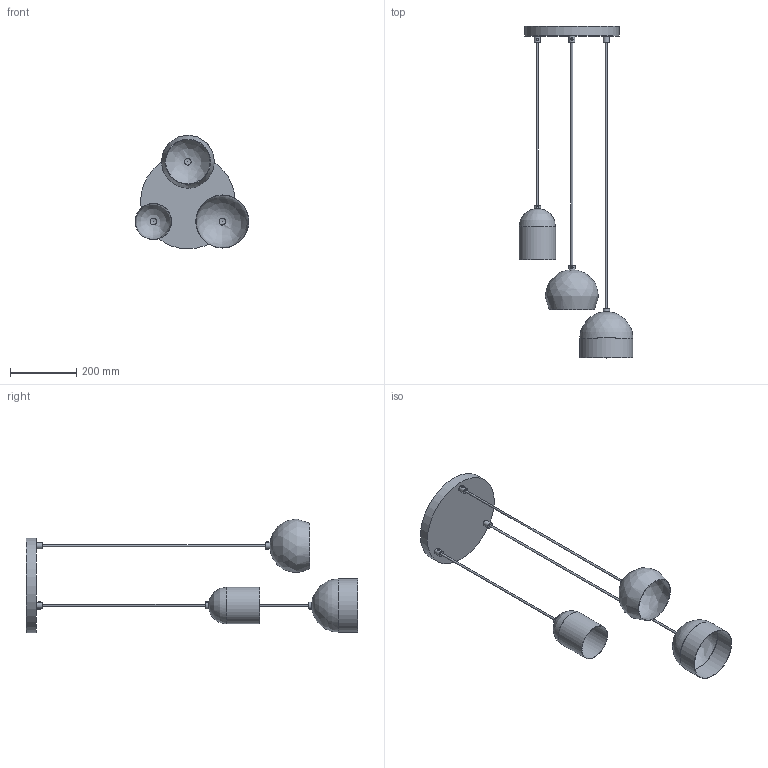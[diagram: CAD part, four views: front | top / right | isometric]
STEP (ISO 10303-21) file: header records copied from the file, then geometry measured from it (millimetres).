
FILE_DESCRIPTION(/* description */ (''),/* implementation_level */ '2;1');
FILE_NAME(/* name */ 'C:/Users/kubaw/OneDrive/Pulpit/Nowy folder/2827_TEMPRE/2827_TEMPRE v4.step',/* time_stamp */ '2021-03-13T10:45:07+01:00',/* author */ (''),/* organization */ (''),/* preprocessor_version */ 'ST-DEVELOPER v18.1',/* originating_system */ 'Autodesk Translation Framework v9.10.0.1330',/* authorisation */ '');
FILE_SCHEMA (('AUTOMOTIVE_DESIGN { 1 0 10303 214 3 1 1 }'));
Length unit declared in the file: millimetre
Products named in the file (10): 2827_TEMPRE; Component1; LISTWA2; Component2; TEMPRE 1C; Component3; TEMPRE 3B; Component4; TEMPRE 2C; DOCISK
Assembly tree (14 placements, depth 4):
  2827_TEMPRE
    Component1
      LISTWA2
    Component2
      TEMPRE 1C
        DOCISK  x2
    Component3
      TEMPRE 3B
        DOCISK  x2
    Component4
      TEMPRE 2C
        DOCISK  x2
Bounding box: 342.85 x 1000 x 342.77 mm (x, y, z)
Volume: 2177379.4 mm3; surface area: 570352.9 mm2
Topology: 19 solids, 19 shells, 98 faces, 165 edges, 109 vertices
Faces by surface type: plane 66, cylinder 23, bspline 9
Full cylindrical faces by diameter (mm): 6 x3, 7 x9, 18 x3, 20 x3, 108 x1, 110 x1, 158 x1, 160 x1, 285 x1
Entity records: 1862 total; most frequent: CARTESIAN_POINT 497, DIRECTION 288, ORIENTED_EDGE 170, AXIS2_PLACEMENT_3D 129, EDGE_CURVE 85, EDGE_LOOP 68, VERTEX_POINT 59, FACE_OUTER_BOUND 58
